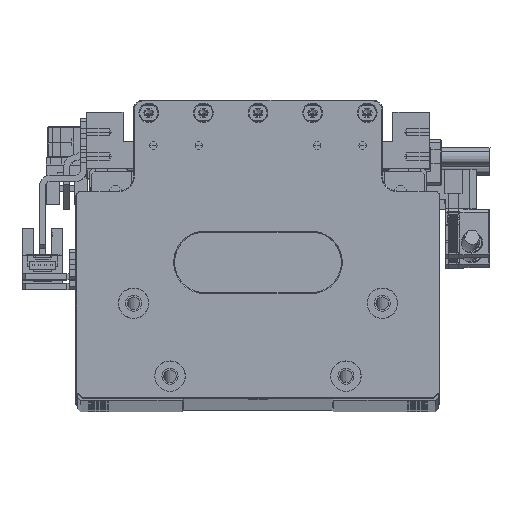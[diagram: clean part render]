
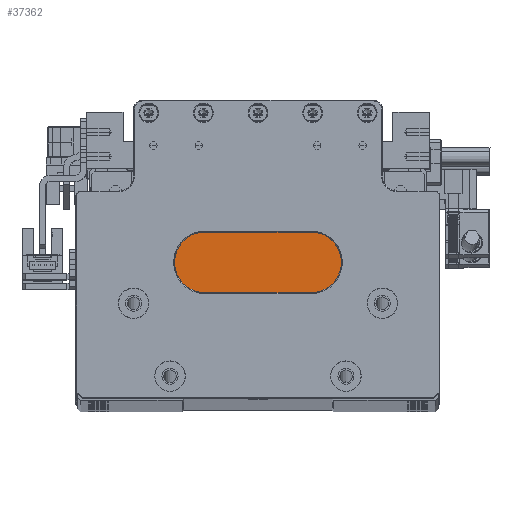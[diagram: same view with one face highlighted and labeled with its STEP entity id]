
A CAD part, top view. The second image highlights one B-rep face of the part: STEP entity #37362.
In plain terms, the highlighted planar face has unit normal (0, 0, 1).
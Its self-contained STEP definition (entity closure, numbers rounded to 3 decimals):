
#1047 = ORIENTED_EDGE ( 'NONE', *, *, #118781, .T. ) ;
#2278 = AXIS2_PLACEMENT_3D ( 'NONE', #108524, #45637, #119165 ) ;
#3229 = VECTOR ( 'NONE', #128827, 1000. ) ;
#3886 = ORIENTED_EDGE ( 'NONE', *, *, #54972, .T. ) ;
#4380 = CARTESIAN_POINT ( 'NONE',  ( -4.632, -17.023, 375. ) ) ;
#4554 = CARTESIAN_POINT ( 'NONE',  ( 13.868, -9.223, 375. ) ) ;
#10040 = EDGE_CURVE ( 'NONE', #55713, #122108, #59449, .T. ) ;
#10781 = VERTEX_POINT ( 'NONE', #18354 ) ;
#12548 = VECTOR ( 'NONE', #119606, 1000. ) ;
#14703 = VERTEX_POINT ( 'NONE', #82269 ) ;
#15401 = LINE ( 'NONE', #121652, #39958 ) ;
#15846 = LINE ( 'NONE', #4380, #12548 ) ;
#16889 = VECTOR ( 'NONE', #29383, 1000. ) ;
#17124 = AXIS2_PLACEMENT_3D ( 'NONE', #96415, #117631, #54685 ) ;
#18250 = LINE ( 'NONE', #30969, #42838 ) ;
#18354 = CARTESIAN_POINT ( 'NONE',  ( -23.132, -9.223, 375. ) ) ;
#19139 = FACE_BOUND ( 'NONE', #78072, .T. ) ;
#19574 = VERTEX_POINT ( 'NONE', #130823 ) ;
#20956 = DIRECTION ( 'NONE',  ( 0., 0., -1. ) ) ;
#22579 = CARTESIAN_POINT ( 'NONE',  ( 13.868, -17.023, 375. ) ) ;
#27073 = DIRECTION ( 'NONE',  ( 0., -1., 0. ) ) ;
#27348 = CARTESIAN_POINT ( 'NONE',  ( -23.132, -17.023, 375. ) ) ;
#28197 = CARTESIAN_POINT ( 'NONE',  ( -4.632, -17.023, 375. ) ) ;
#28408 = EDGE_CURVE ( 'NONE', #122325, #68835, #111591, .T. ) ;
#28998 = DIRECTION ( 'NONE',  ( 0., 1., 0. ) ) ;
#29383 = DIRECTION ( 'NONE',  ( 0., 1., 0. ) ) ;
#30969 = CARTESIAN_POINT ( 'NONE',  ( -23.132, -9.023, 375. ) ) ;
#31173 = DIRECTION ( 'NONE',  ( 0., 0., -1. ) ) ;
#34538 = VECTOR ( 'NONE', #28998, 1000. ) ;
#37239 = CARTESIAN_POINT ( 'NONE',  ( -34.432, -49.223, 375. ) ) ;
#37270 = ORIENTED_EDGE ( 'NONE', *, *, #105391, .T. ) ;
#37362 = ADVANCED_FACE ( 'NONE', ( #47027, #74956, #19139 ), #106552, .T. ) ;
#38226 = VERTEX_POINT ( 'NONE', #22579 ) ;
#39096 = EDGE_CURVE ( 'NONE', #38226, #135979, #100570, .T. ) ;
#39958 = VECTOR ( 'NONE', #27073, 1000. ) ;
#41241 = VERTEX_POINT ( 'NONE', #65641 ) ;
#41395 = AXIS2_PLACEMENT_3D ( 'NONE', #60359, #133926, #70956 ) ;
#41693 = CIRCLE ( 'NONE', #103837, 1.25 ) ;
#42823 = CARTESIAN_POINT ( 'NONE',  ( -4.632, -9.223, 375. ) ) ;
#42838 = VECTOR ( 'NONE', #93771, 1000. ) ;
#44481 = CIRCLE ( 'NONE', #84322, 1.25 ) ;
#45637 = DIRECTION ( 'NONE',  ( 0., 0., -1. ) ) ;
#47027 = FACE_OUTER_BOUND ( 'NONE', #117836, .T. ) ;
#54685 = DIRECTION ( 'NONE',  ( 1., 0., 0. ) ) ;
#54972 = EDGE_CURVE ( 'NONE', #41241, #131500, #93635, .T. ) ;
#55713 = VERTEX_POINT ( 'NONE', #27348 ) ;
#59449 = LINE ( 'NONE', #28197, #62737 ) ;
#59994 = EDGE_CURVE ( 'NONE', #122108, #122325, #15401, .T. ) ;
#60359 = CARTESIAN_POINT ( 'NONE',  ( -12.132, -17.023, 375. ) ) ;
#61735 = VECTOR ( 'NONE', #85077, 1000. ) ;
#62737 = VECTOR ( 'NONE', #91020, 1000. ) ;
#65641 = CARTESIAN_POINT ( 'NONE',  ( -13.382, -17.023, 375. ) ) ;
#67772 = CARTESIAN_POINT ( 'NONE',  ( 4.118, -17.023, 375. ) ) ;
#68835 = VERTEX_POINT ( 'NONE', #123048 ) ;
#70956 = DIRECTION ( 'NONE',  ( 1., 0., 0. ) ) ;
#71152 = CARTESIAN_POINT ( 'NONE',  ( 13.868, -9.023, 375. ) ) ;
#74505 = EDGE_CURVE ( 'NONE', #14703, #38226, #15846, .T. ) ;
#74956 = FACE_BOUND ( 'NONE', #103113, .T. ) ;
#75990 = CARTESIAN_POINT ( 'NONE',  ( -34.632, -49.223, 375. ) ) ;
#76420 = CARTESIAN_POINT ( 'NONE',  ( -10.882, -17.023, 375. ) ) ;
#77609 = ORIENTED_EDGE ( 'NONE', *, *, #124839, .T. ) ;
#78072 = EDGE_LOOP ( 'NONE', ( #135637, #3886 ) ) ;
#81618 = ORIENTED_EDGE ( 'NONE', *, *, #117610, .T. ) ;
#82269 = CARTESIAN_POINT ( 'NONE',  ( 25.168, -17.023, 375. ) ) ;
#83837 = CARTESIAN_POINT ( 'NONE',  ( -12.132, -17.023, 375. ) ) ;
#84322 = AXIS2_PLACEMENT_3D ( 'NONE', #93983, #31173, #104561 ) ;
#85077 = DIRECTION ( 'NONE',  ( -1., 0., 0. ) ) ;
#91020 = DIRECTION ( 'NONE',  ( -1., 0., 0. ) ) ;
#91806 = CARTESIAN_POINT ( 'NONE',  ( 25.168, -9.023, 375. ) ) ;
#92943 = LINE ( 'NONE', #42823, #61735 ) ;
#93635 = CIRCLE ( 'NONE', #41395, 1.25 ) ;
#93771 = DIRECTION ( 'NONE',  ( 0., -1., 0. ) ) ;
#93983 = CARTESIAN_POINT ( 'NONE',  ( 2.868, -17.023, 375. ) ) ;
#94314 = DIRECTION ( 'NONE',  ( 1., 0., 0. ) ) ;
#96415 = CARTESIAN_POINT ( 'NONE',  ( -4.632, -9.023, 375. ) ) ;
#96446 = CARTESIAN_POINT ( 'NONE',  ( -34.432, -17.023, 375. ) ) ;
#99801 = ORIENTED_EDGE ( 'NONE', *, *, #134576, .T. ) ;
#100570 = LINE ( 'NONE', #71152, #16889 ) ;
#101186 = CIRCLE ( 'NONE', #2278, 1.25 ) ;
#103113 = EDGE_LOOP ( 'NONE', ( #37270, #99801 ) ) ;
#103837 = AXIS2_PLACEMENT_3D ( 'NONE', #83837, #20956, #94314 ) ;
#104561 = DIRECTION ( 'NONE',  ( 1., 0., 0. ) ) ;
#105391 = EDGE_CURVE ( 'NONE', #127708, #19574, #44481, .T. ) ;
#106552 = PLANE ( 'NONE',  #17124 ) ;
#106591 = ORIENTED_EDGE ( 'NONE', *, *, #10040, .T. ) ;
#108524 = CARTESIAN_POINT ( 'NONE',  ( 2.868, -17.023, 375. ) ) ;
#111591 = LINE ( 'NONE', #75990, #3229 ) ;
#117290 = ORIENTED_EDGE ( 'NONE', *, *, #39096, .T. ) ;
#117610 = EDGE_CURVE ( 'NONE', #10781, #55713, #18250, .T. ) ;
#117631 = DIRECTION ( 'NONE',  ( 0., 0., 1. ) ) ;
#117836 = EDGE_LOOP ( 'NONE', ( #77609, #81618, #106591, #122758, #123834, #1047, #118520, #117290 ) ) ;
#118367 = LINE ( 'NONE', #91806, #34538 ) ;
#118520 = ORIENTED_EDGE ( 'NONE', *, *, #74505, .T. ) ;
#118781 = EDGE_CURVE ( 'NONE', #68835, #14703, #118367, .T. ) ;
#119165 = DIRECTION ( 'NONE',  ( 1., 0., 0. ) ) ;
#119606 = DIRECTION ( 'NONE',  ( -1., 0., 0. ) ) ;
#121652 = CARTESIAN_POINT ( 'NONE',  ( -34.432, -9.023, 375. ) ) ;
#122108 = VERTEX_POINT ( 'NONE', #96446 ) ;
#122325 = VERTEX_POINT ( 'NONE', #37239 ) ;
#122758 = ORIENTED_EDGE ( 'NONE', *, *, #59994, .T. ) ;
#123048 = CARTESIAN_POINT ( 'NONE',  ( 25.168, -49.223, 375. ) ) ;
#123834 = ORIENTED_EDGE ( 'NONE', *, *, #28408, .T. ) ;
#124839 = EDGE_CURVE ( 'NONE', #135979, #10781, #92943, .T. ) ;
#127708 = VERTEX_POINT ( 'NONE', #67772 ) ;
#128827 = DIRECTION ( 'NONE',  ( 1., 0., 0. ) ) ;
#130823 = CARTESIAN_POINT ( 'NONE',  ( 1.618, -17.023, 375. ) ) ;
#131500 = VERTEX_POINT ( 'NONE', #76420 ) ;
#133926 = DIRECTION ( 'NONE',  ( 0., 0., -1. ) ) ;
#134576 = EDGE_CURVE ( 'NONE', #19574, #127708, #101186, .T. ) ;
#135637 = ORIENTED_EDGE ( 'NONE', *, *, #136340, .T. ) ;
#135979 = VERTEX_POINT ( 'NONE', #4554 ) ;
#136340 = EDGE_CURVE ( 'NONE', #131500, #41241, #41693, .T. ) ;
